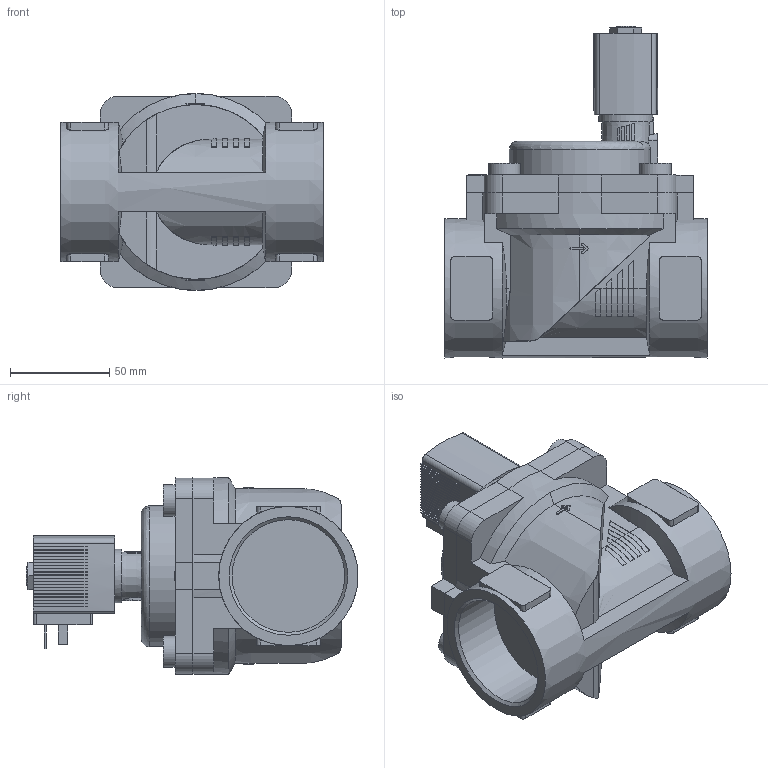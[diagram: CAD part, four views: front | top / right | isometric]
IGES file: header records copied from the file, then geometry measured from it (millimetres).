
Start section: Data from Parasolid IGES Translator 26.0.171, Copyright(c) 2006 Siemens PLM Software. All Rights Reserved.
Global section: file name: 6281-238461-2_2-Way_Solenoid_Valve__Servo-assisted__General_Purpose.igs; native system: By Siemens PLM Incorporated; preprocessor: XPlus GENERIC/IGES 26.0.171; author: Noname; organization: Noname; date: 20240904.155956; units: millimetre
Bounding box: 132 x 167 x 99 mm (x, y, z)
Surface area: 103506.7 mm2 (no closed solid volume)
Topology: 0 solids, 0 shells, 573 faces, 3234 edges, 3227 vertices
Faces by surface type: extrusion 445, revolution 128
